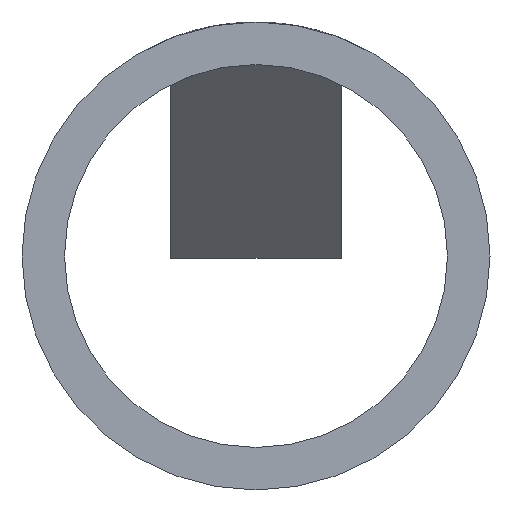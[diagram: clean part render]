
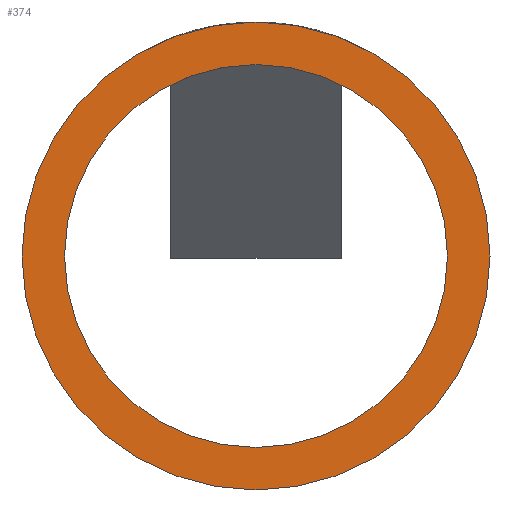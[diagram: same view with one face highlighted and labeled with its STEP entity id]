
A CAD part, front view. The second image highlights one B-rep face of the part: STEP entity #374.
In plain terms, the highlighted planar face has unit normal (0, -1, 0).
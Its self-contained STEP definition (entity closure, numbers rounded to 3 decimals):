
#9 = ORIENTED_EDGE ( 'NONE', *, *, #112, .T. ) ;
#10 = ORIENTED_EDGE ( 'NONE', *, *, #132, .T. ) ;
#11 = ORIENTED_EDGE ( 'NONE', *, *, #137, .F. ) ;
#12 = ORIENTED_EDGE ( 'NONE', *, *, #104, .F. ) ;
#57 = EDGE_LOOP ( 'NONE', ( #9, #10 ) ) ;
#60 = EDGE_LOOP ( 'NONE', ( #11, #12 ) ) ;
#95 = AXIS2_PLACEMENT_3D ( 'NONE', #230, #220, #219 ) ;
#98 = AXIS2_PLACEMENT_3D ( 'NONE', #308, #291, #289 ) ;
#101 = AXIS2_PLACEMENT_3D ( 'NONE', #288, #275, #274 ) ;
#104 = EDGE_CURVE ( 'NONE', #293, #276, #401, .T. ) ;
#112 = EDGE_CURVE ( 'NONE', #211, #182, #429, .T. ) ;
#132 = EDGE_CURVE ( 'NONE', #182, #211, #427, .T. ) ;
#137 = EDGE_CURVE ( 'NONE', #276, #293, #493, .T. ) ;
#139 = AXIS2_PLACEMENT_3D ( 'NONE', #335, #326, #325 ) ;
#153 = AXIS2_PLACEMENT_3D ( 'NONE', #350, #349, #348 ) ;
#182 = VERTEX_POINT ( 'NONE', #261 ) ;
#211 = VERTEX_POINT ( 'NONE', #254 ) ;
#219 = DIRECTION ( 'NONE',  ( -1., 0., 0. ) ) ;
#220 = DIRECTION ( 'NONE',  ( 0., -1., 0. ) ) ;
#221 = PLANE ( 'NONE',  #95 ) ;
#230 = CARTESIAN_POINT ( 'NONE',  ( 0., 0., 0. ) ) ;
#240 = CARTESIAN_POINT ( 'NONE',  ( -4.5, 0., 0. ) ) ;
#245 = CARTESIAN_POINT ( 'NONE',  ( 4.5, 0., 0. ) ) ;
#254 = CARTESIAN_POINT ( 'NONE',  ( 5.5, 0., 0. ) ) ;
#261 = CARTESIAN_POINT ( 'NONE',  ( -5.5, 0., 0. ) ) ;
#274 = DIRECTION ( 'NONE',  ( -1., 0., 0. ) ) ;
#275 = DIRECTION ( 'NONE',  ( 0., -1., 0. ) ) ;
#276 = VERTEX_POINT ( 'NONE', #245 ) ;
#288 = CARTESIAN_POINT ( 'NONE',  ( 0., 0., 0. ) ) ;
#289 = DIRECTION ( 'NONE',  ( -1., 0., 0. ) ) ;
#291 = DIRECTION ( 'NONE',  ( 0., -1., 0. ) ) ;
#293 = VERTEX_POINT ( 'NONE', #240 ) ;
#308 = CARTESIAN_POINT ( 'NONE',  ( 0., 0., 0. ) ) ;
#325 = DIRECTION ( 'NONE',  ( -1., 0., 0. ) ) ;
#326 = DIRECTION ( 'NONE',  ( 0., -1., 0. ) ) ;
#335 = CARTESIAN_POINT ( 'NONE',  ( 0., 0., 0. ) ) ;
#348 = DIRECTION ( 'NONE',  ( -1., 0., 0. ) ) ;
#349 = DIRECTION ( 'NONE',  ( 0., -1., 0. ) ) ;
#350 = CARTESIAN_POINT ( 'NONE',  ( 0., 0., 0. ) ) ;
#374 = ADVANCED_FACE ( 'NONE', ( #485, #483 ), #221, .T. ) ;
#401 = CIRCLE ( 'NONE', #153, 4.5 ) ;
#427 = CIRCLE ( 'NONE', #98, 5.5 ) ;
#429 = CIRCLE ( 'NONE', #139, 5.5 ) ;
#483 = FACE_BOUND ( 'NONE', #60, .T. ) ;
#485 = FACE_OUTER_BOUND ( 'NONE', #57, .T. ) ;
#493 = CIRCLE ( 'NONE', #101, 4.5 ) ;
